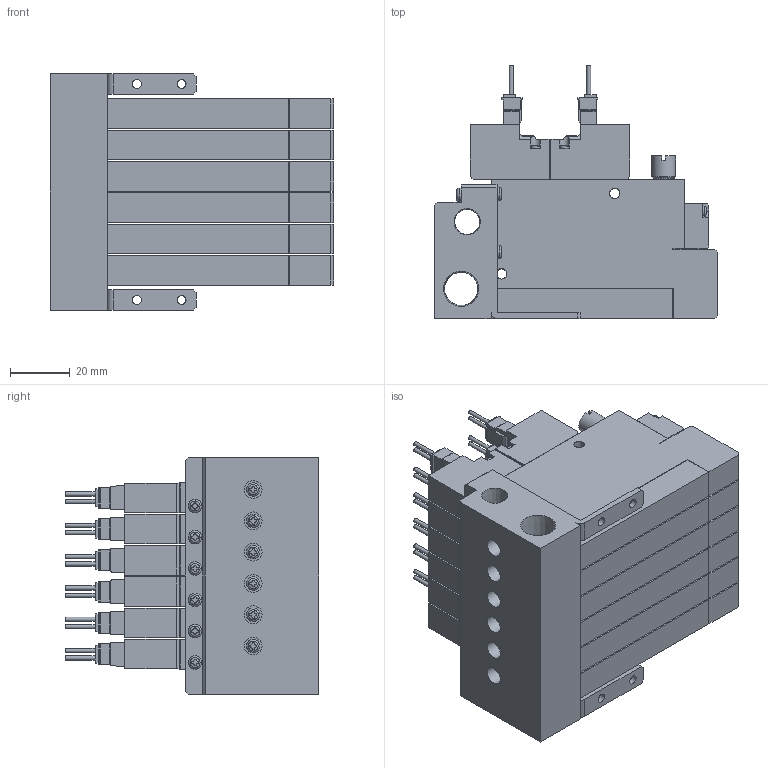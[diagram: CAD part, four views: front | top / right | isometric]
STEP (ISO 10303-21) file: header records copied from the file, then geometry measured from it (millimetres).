
FILE_DESCRIPTION(('STEP AP203'),'1');
FILE_NAME('ZZC5SC606_3D.stp','2024-09-04T23:09:41',(' '),(' '),'Spatial InterOp 3D',' ',' ');
FILE_SCHEMA(('CONFIG_CONTROL_DESIGN'));
Length unit declared in the file: millimetre
Products named in the file (5): BSC1M※※ZZC5SC606; Solenoid valve S; Pressure Sensor ZZ; Unit-C; BaseMC60R
Assembly tree (19 placements, depth 2):
  BSC1M※※ZZC5SC606
    Solenoid valve S  x6
    Pressure Sensor ZZ  x6
    Unit-C  x6
    BaseMC60R
Bounding box: 95 x 85.05 x 79.5 mm (x, y, z)
Volume: 311258.4 mm3; surface area: 108124.1 mm2
Topology: 19 solids, 19 shells, 2151 faces, 5775 edges, 3822 vertices
Faces by surface type: plane 1649, cylinder 400, cone 46, sphere 28, torus 28
Full cylindrical faces by diameter (mm): 1.4 x24, 2.5 x12, 3 x28, 3.5 x36, 4 x6, 4.134 x12, 4.5 x16, 5.5 x6, 6 x6, 7 x12, 8 x6, 8.422 x1, 11.233 x1
Entity records: 19303 total; most frequent: CARTESIAN_POINT 4466, DIRECTION 2987, ORIENTED_EDGE 2832, EDGE_CURVE 1416, AXIS2_PLACEMENT_3D 1030, VERTEX_POINT 1007, LINE 927, VECTOR 927
